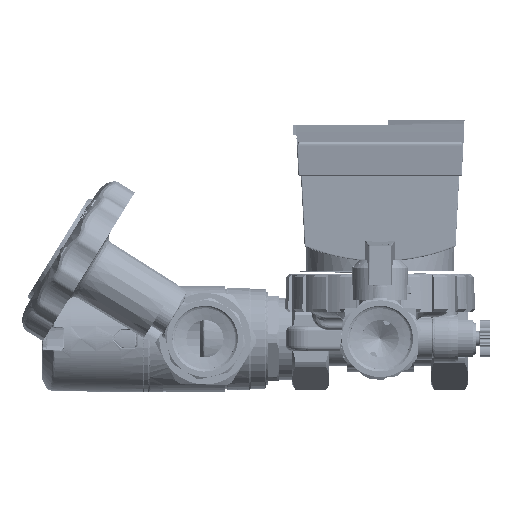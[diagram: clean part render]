
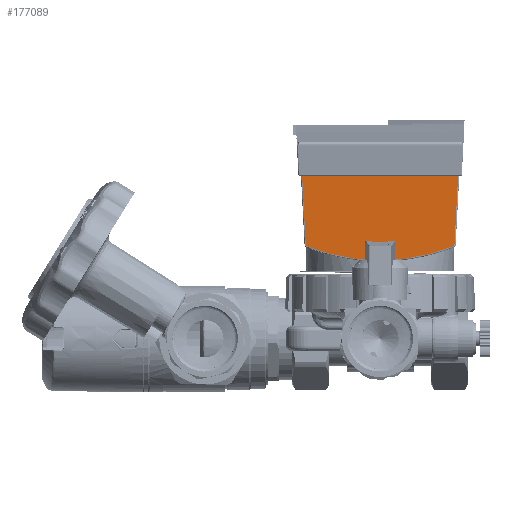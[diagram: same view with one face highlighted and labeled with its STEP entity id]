
A CAD part, left-side view. The second image highlights one B-rep face of the part: STEP entity #177089.
In plain terms, the highlighted planar face has unit normal (-0.999, 0, -0.052) as drawn and (-0.052, 0, -0.999) by its records, which use the part's own axes.
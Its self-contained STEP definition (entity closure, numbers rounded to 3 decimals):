
#489 = CARTESIAN_POINT ( 'NONE',  ( 18.103, -31.005, -46.321 ) ) ;
#10359 = ORIENTED_EDGE ( 'NONE', *, *, #88922, .F. ) ;
#28346 = EDGE_LOOP ( 'NONE', ( #185822, #10359, #385902, #260998, #77587 ) ) ;
#29239 = EDGE_CURVE ( 'NONE', #49185, #292706, #277609, .T. ) ;
#46084 = AXIS2_PLACEMENT_3D ( 'NONE', #400274, #278062, #238207 ) ;
#49185 = VERTEX_POINT ( 'NONE', #320539 ) ;
#67291 = CARTESIAN_POINT ( 'NONE',  ( -6.626, -5.13, -45.025 ) ) ;
#73880 = CARTESIAN_POINT ( 'NONE',  ( 27.525, -31.499, -46.815 ) ) ;
#77587 = ORIENTED_EDGE ( 'NONE', *, *, #29239, .F. ) ;
#80419 = PLANE ( 'NONE',  #46084 ) ;
#88171 = CARTESIAN_POINT ( 'NONE',  ( 27.525, -31.499, -46.815 ) ) ;
#88922 = EDGE_CURVE ( 'NONE', #133669, #392585, #259663, .T. ) ;
#98321 = EDGE_CURVE ( 'NONE', #248808, #133669, #145107, .T. ) ;
#109140 = CARTESIAN_POINT ( 'NONE',  ( -2.678, 25.267, -45.232 ) ) ;
#109656 = CARTESIAN_POINT ( 'NONE',  ( -6.626, 0., -45.025 ) ) ;
#113290 = CARTESIAN_POINT ( 'NONE',  ( -6.626, 0., -45.025 ) ) ;
#130464 = CARTESIAN_POINT ( 'NONE',  ( -2.678, -25.268, -45.232 ) ) ;
#133669 = VERTEX_POINT ( 'NONE', #414038 ) ;
#138654 = CARTESIAN_POINT ( 'NONE',  ( -5.63, 15.391, -45.077 ) ) ;
#145107 = LINE ( 'NONE', #275494, #180579 ) ;
#176472 = CARTESIAN_POINT ( 'NONE',  ( -6.626, 5.13, -45.025 ) ) ;
#177089 = ADVANCED_FACE ( 'NONE', ( #341244 ), #80419, .F. ) ;
#180579 = VECTOR ( 'NONE', #376452, 1000. ) ;
#185822 = ORIENTED_EDGE ( 'NONE', *, *, #394021, .F. ) ;
#191521 = CARTESIAN_POINT ( 'NONE',  ( -0.741, -30.016, -45.333 ) ) ;
#212167 = DIRECTION ( 'NONE',  ( 0., -1., 0. ) ) ;
#225121 = CARTESIAN_POINT ( 'NONE',  ( -5.63, -15.391, -45.077 ) ) ;
#238207 = DIRECTION ( 'NONE',  ( 0.999, 0., -0.052 ) ) ;
#248808 = VERTEX_POINT ( 'NONE', #279290 ) ;
#256690 = CARTESIAN_POINT ( 'NONE',  ( -6.626, 0., -45.025 ) ) ;
#257048 = CARTESIAN_POINT ( 'NONE',  ( -0.741, -30.016, -45.333 ) ) ;
#259663 = B_SPLINE_CURVE_WITH_KNOTS ( 'NONE', 3,
 ( #397462, #109140, #138654, #176472, #113290 ),
 .UNSPECIFIED., .F., .F.,
 ( 4, 1, 4 ),
 ( 0., 0.5, 1. ),
 .UNSPECIFIED. ) ;
#260998 = ORIENTED_EDGE ( 'NONE', *, *, #274499, .T. ) ;
#274499 = EDGE_CURVE ( 'NONE', #248808, #292706, #308901, .T. ) ;
#275494 = CARTESIAN_POINT ( 'NONE',  ( 27.525, 31.499, -46.815 ) ) ;
#277609 = B_SPLINE_CURVE_WITH_KNOTS ( 'NONE', 3,
 ( #257048, #360077, #489, #73880 ),
 .UNSPECIFIED., .F., .F.,
 ( 4, 4 ),
 ( 0., 1. ),
 .UNSPECIFIED. ) ;
#278062 = DIRECTION ( 'NONE',  ( 0.052, 0., 0.999 ) ) ;
#279290 = CARTESIAN_POINT ( 'NONE',  ( 27.525, 31.499, -46.815 ) ) ;
#279357 = CARTESIAN_POINT ( 'NONE',  ( 27.525, -35.2, -46.815 ) ) ;
#292706 = VERTEX_POINT ( 'NONE', #88171 ) ;
#308901 = LINE ( 'NONE', #279357, #365492 ) ;
#320539 = CARTESIAN_POINT ( 'NONE',  ( -0.741, -30.016, -45.333 ) ) ;
#341244 = FACE_OUTER_BOUND ( 'NONE', #28346, .T. ) ;
#360077 = CARTESIAN_POINT ( 'NONE',  ( 8.681, -30.511, -45.827 ) ) ;
#365492 = VECTOR ( 'NONE', #212167, 1000. ) ;
#376452 = DIRECTION ( 'NONE',  ( -0.997, -0.052, 0.052 ) ) ;
#378159 = B_SPLINE_CURVE_WITH_KNOTS ( 'NONE', 3,
 ( #256690, #67291, #225121, #130464, #191521 ),
 .UNSPECIFIED., .F., .F.,
 ( 4, 1, 4 ),
 ( 0., 0.5, 1. ),
 .UNSPECIFIED. ) ;
#385902 = ORIENTED_EDGE ( 'NONE', *, *, #98321, .F. ) ;
#392585 = VERTEX_POINT ( 'NONE', #109656 ) ;
#394021 = EDGE_CURVE ( 'NONE', #392585, #49185, #378159, .T. ) ;
#397462 = CARTESIAN_POINT ( 'NONE',  ( -0.741, 30.016, -45.333 ) ) ;
#400274 = CARTESIAN_POINT ( 'NONE',  ( 32.5, 33.987, -47.075 ) ) ;
#414038 = CARTESIAN_POINT ( 'NONE',  ( -0.741, 30.016, -45.333 ) ) ;
